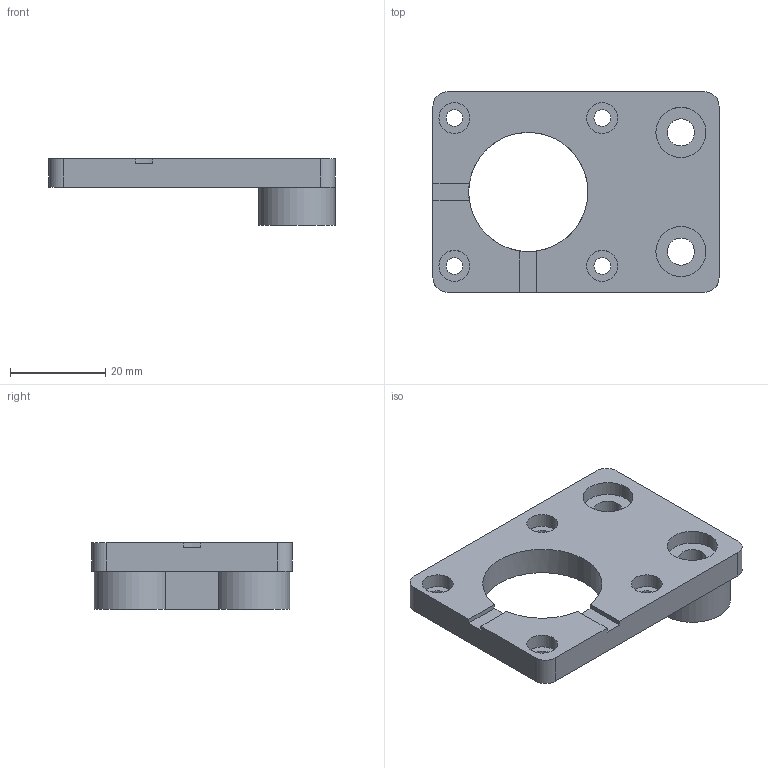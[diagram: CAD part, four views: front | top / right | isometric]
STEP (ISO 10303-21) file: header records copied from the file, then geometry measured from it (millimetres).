
FILE_DESCRIPTION(('Open CASCADE Model'),'2;1');
FILE_NAME('Open CASCADE Shape Model','2026-10-26T02:20:16',('Author'),( 'Open CASCADE'),'Open CASCADE STEP processor 7.9','build123d', 'Unknown');
FILE_SCHEMA(('AUTOMOTIVE_DESIGN { 1 0 10303 214 1 1 1 1 }'));
Length unit declared in the file: millimetre
Products named in the file (1): COMPOUND
Bounding box: 60 x 42 x 14 mm (x, y, z)
Volume: 14313.3 mm3; surface area: 7363.6 mm2
Topology: 1 solids, 1 shells, 42 faces, 103 edges, 68 vertices
Faces by surface type: plane 23, cylinder 19
Full cylindrical faces by diameter (mm): 3.5 x4, 5.7 x2, 6.5 x4, 10.5 x2, 25 x1
Entity records: 2622 total; most frequent: CARTESIAN_POINT 520, DIRECTION 389, ORIENTED_EDGE 206, PCURVE 206, DEFINITIONAL_REPRESENTATION 206, LINE 181, VECTOR 181, EDGE_CURVE 103
